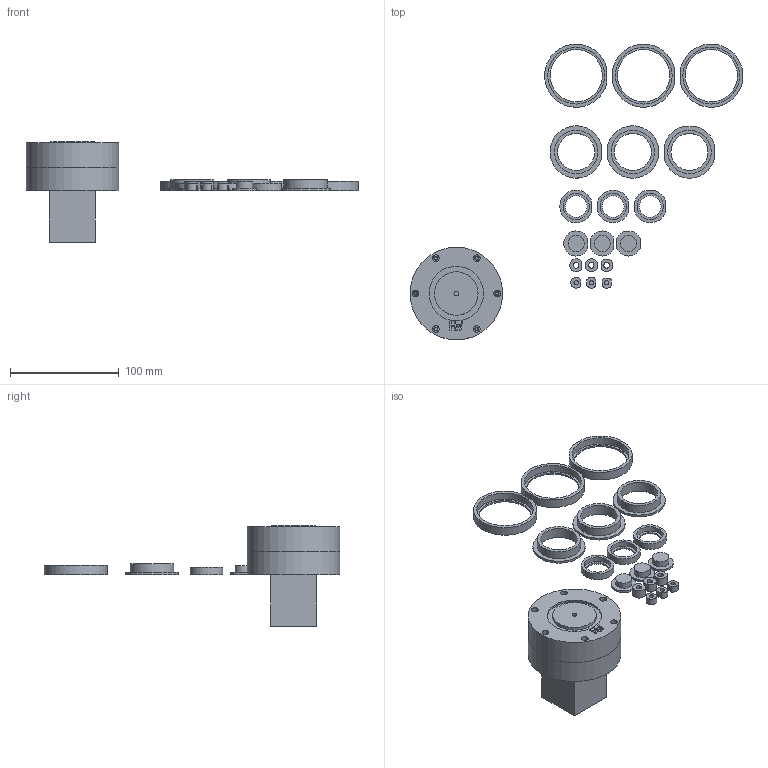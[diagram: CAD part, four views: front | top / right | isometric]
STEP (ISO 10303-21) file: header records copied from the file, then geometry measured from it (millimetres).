
FILE_DESCRIPTION(/* description */ (''),/* implementation_level */ '2;1');
FILE_NAME(/* name */ 'HW-Cycloid25_Assembly.step',/* time_stamp */ '2026-10-21T02:02:01-07:00',/* author */ (''),/* organization */ (''),/* preprocessor_version */ 'ST-DEVELOPER v20.2',/* originating_system */ 'Autodesk Translation Framework v15.15.0.0',/* authorisation */ '');
FILE_SCHEMA (('AUTOMOTIVE_DESIGN { 1 0 10303 214 3 1 1 }'));
Length unit declared in the file: millimetre
Products named in the file (12): 2026-10-21-01-57-17-645; 2026-10-21-01-58-53-133; 2026-10-21-01-58-53-414; 2026-10-21-01-58-53-668; 2026-10-21-01-58-54-734; 2026-10-21-01-58-55-805; 2026-10-21-01-58-57-126; 2026-10-21-01-58-57-895; 2026-10-21-01-58-58-180; 2026-10-21-01-58-59-084; 2026-10-21-01-58-49-710; 2026-10-21-01-59-03-684
Assembly tree (12 placements, depth 2):
  2026-10-21-01-57-17-645
    2026-10-21-01-58-49-710  x2
    2026-10-21-01-58-53-133
    2026-10-21-01-58-53-414
    2026-10-21-01-58-53-668
    2026-10-21-01-58-54-734
    2026-10-21-01-58-55-805
    2026-10-21-01-58-57-126
    2026-10-21-01-58-57-895
    2026-10-21-01-58-58-180
    2026-10-21-01-58-59-084
    2026-10-21-01-59-03-684
Bounding box: 304.69 x 271.49 x 92.48 mm (x, y, z)
Volume: 355900.2 mm3; surface area: 137468.7 mm2
Topology: 74 solids, 74 shells, 587 faces, 1172 edges, 780 vertices
Faces by surface type: plane 290, cylinder 247, bspline 50
Full cylindrical faces by diameter (mm): 2.7 x6, 3.5 x10, 3.99 x45, 4.04 x33, 4.09 x1, 4.32 x1, 5 x1, 5.3 x1, 6.1 x10, 7 x2, 9 x12, 11.25 x12, 12.96 x1, 14.91 x1, 14.96 x3, 14.99 x2, 15.01 x1, 19.99 x3, 22 x1, 23 x1, 23.99 x2, 24.09 x1, 24.14 x3, 24.19 x1, 33.98 x3, 39.88 x1, 39.93 x2, 39.98 x3, 43 x1, 47.99 x3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
Entity records: 27109 total; most frequent: CARTESIAN_POINT 14980, DIRECTION 2650, ORIENTED_EDGE 2140, AXIS2_PLACEMENT_3D 1082, EDGE_CURVE 1070, VERTEX_POINT 712, EDGE_LOOP 690, FACE_OUTER_BOUND 549
